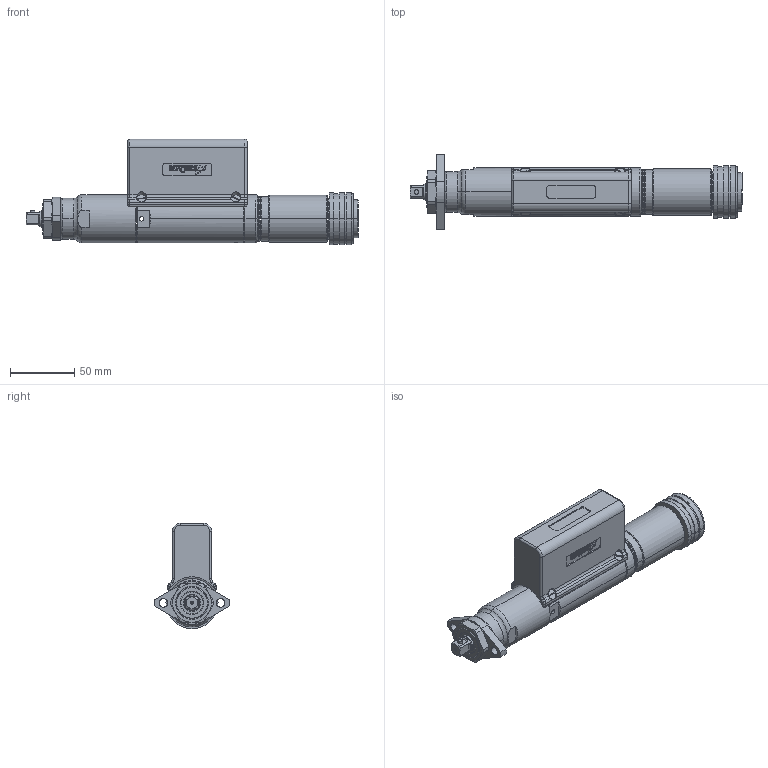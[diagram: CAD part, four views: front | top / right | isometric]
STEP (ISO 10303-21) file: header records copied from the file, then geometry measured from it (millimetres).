
FILE_DESCRIPTION (( 'STEP AP203' ), '1' );
FILE_NAME ('AEF4X12003B & AEF4X12006B.STEP', '2012-06-22T15:18:42', ( 'AIMCO' ), ( '' ), 'SwSTEP 2.0', 'SolidWorks 2012', '' );
FILE_SCHEMA (( 'CONFIG_CONTROL_DESIGN' ));
Products named in the file (1): AEF4X12003B & AEF4X12006B
Bounding box: 257.78 x 58.71 x 82.09 mm (x, y, z)
Surface area: 59750.2 mm2 (no closed solid volume)
Topology: 0 solids, 76 shells, 884 faces, 3701 edges, 2876 vertices
Faces by surface type: plane 516, cylinder 187, torus 96, cone 80, sphere 4, bspline 1
Entity records: 39641 total; most frequent: CARTESIAN_POINT 10166, DIRECTION 5954, ORIENTED_EDGE 5144, EDGE_CURVE 3693, VERTEX_POINT 2872, LINE 2734, VECTOR 2734, AXIS2_PLACEMENT_3D 1610
